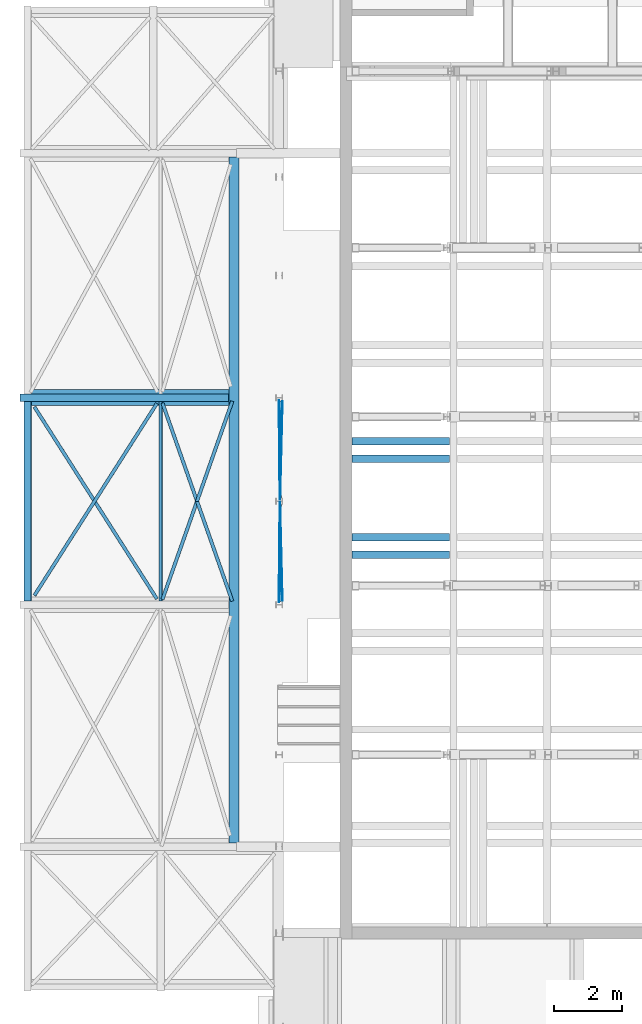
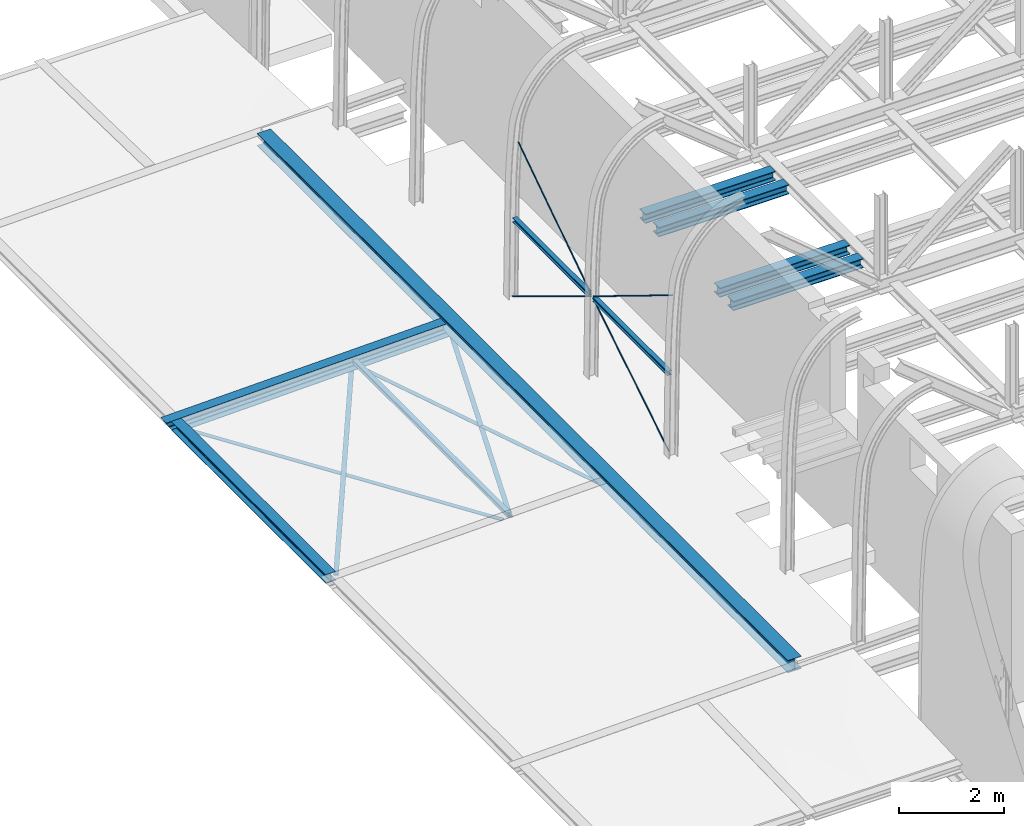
# One storey, part 14 of 29: 18 beams.
"""IFC2X3 building model written with IfcOpenShell, lengths in millimetres."""

from ifc_helpers import new_model, entity, si_unit, converted_unit, derived_unit, direction, frame, frame_2d, origin, origin_2d_with_axis, place, context, subcontext, project, spatial, polyline, circle_curve, parameter, trimmed, segment, composite_curve, rectangle, circle, i_section, outline, extrude, clip, halfspace, source, transform, mapped, material, material_list, type_object, type_shapes, element, save


model = new_model("IFC2X3")

# Units and contexts
model_context = context("Model", 3, precision=0.01, world=origin(), true_north=direction((6.12303176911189e-17, 1.0)))
body_context = subcontext(model_context, "Body", "Model", "MODEL_VIEW")
ifc_project = project(units=[si_unit("LENGTHUNIT", "METRE", prefix="MILLI"), si_unit("AREAUNIT", "SQUARE_METRE", prefix="MILLI"), si_unit("VOLUMEUNIT", "CUBIC_METRE"), converted_unit("PLANEANGLEUNIT", "DEGREE", entity("IfcRatioMeasure", 0.0174532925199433), si_unit("PLANEANGLEUNIT", "RADIAN"), dimensions=[0, 0, 0, 0, 0, 0, 0]), si_unit("MASSUNIT", "GRAM", prefix="KILO"), derived_unit("MASSDENSITYUNIT", [(si_unit("MASSUNIT", "GRAM", prefix="KILO"), 1), (si_unit("LENGTHUNIT", "METRE"), -3)]), derived_unit("MOMENTOFINERTIAUNIT", [(si_unit("LENGTHUNIT", "METRE"), 4)]), si_unit("TIMEUNIT", "SECOND"), si_unit("FREQUENCYUNIT", "HERTZ"), si_unit("THERMODYNAMICTEMPERATUREUNIT", "DEGREE_CELSIUS"), derived_unit("THERMALTRANSMITTANCEUNIT", [(si_unit("MASSUNIT", "GRAM", prefix="KILO"), 1), (si_unit("THERMODYNAMICTEMPERATUREUNIT", "KELVIN"), -1), (si_unit("TIMEUNIT", "SECOND"), -3)]), derived_unit("VOLUMETRICFLOWRATEUNIT", [(si_unit("LENGTHUNIT", "METRE"), 3), (si_unit("TIMEUNIT", "SECOND"), -1)]), si_unit("ELECTRICCURRENTUNIT", "AMPERE"), si_unit("ELECTRICVOLTAGEUNIT", "VOLT"), si_unit("POWERUNIT", "WATT"), si_unit("FORCEUNIT", "NEWTON", prefix="KILO"), si_unit("ILLUMINANCEUNIT", "LUX"), si_unit("LUMINOUSFLUXUNIT", "LUMEN"), si_unit("LUMINOUSINTENSITYUNIT", "CANDELA"), derived_unit("USERDEFINED", [(si_unit("MASSUNIT", "GRAM", prefix="KILO"), -1), (si_unit("LENGTHUNIT", "METRE"), -2), (si_unit("TIMEUNIT", "SECOND"), 3), (si_unit("LUMINOUSFLUXUNIT", "LUMEN"), 1)]), derived_unit("LINEARVELOCITYUNIT", [(si_unit("LENGTHUNIT", "METRE"), 1), (si_unit("TIMEUNIT", "SECOND"), -1)]), si_unit("PRESSUREUNIT", "PASCAL"), derived_unit("USERDEFINED", [(si_unit("LENGTHUNIT", "METRE"), -2), (si_unit("MASSUNIT", "GRAM", prefix="KILO"), 1), (si_unit("TIMEUNIT", "SECOND"), -2)]), derived_unit("LINEARFORCEUNIT", [(si_unit("MASSUNIT", "GRAM", prefix="KILO"), 1), (si_unit("LENGTHUNIT", "METRE"), 1), (si_unit("TIMEUNIT", "SECOND"), -2), (si_unit("LENGTHUNIT", "METRE"), -1)]), derived_unit("PLANARFORCEUNIT", [(si_unit("MASSUNIT", "GRAM", prefix="KILO"), 1), (si_unit("LENGTHUNIT", "METRE"), 1), (si_unit("TIMEUNIT", "SECOND"), -2), (si_unit("LENGTHUNIT", "METRE"), -2)])], contexts=[model_context])

# Site, building, storey
site_placement = place(None, origin())
site = spatial("IfcSite", under=ifc_project, at=site_placement, Name="Theater aan de Parade", CompositionType="ELEMENT")
building_placement = place(site_placement, origin())
building = spatial("IfcBuilding", under=site, at=building_placement, Name="Theater aan de Parade", CompositionType="ELEMENT")
storey_placement = place(building_placement, frame((0.0, 0.0, 20300.0)))
storey = spatial("IfcBuildingStorey", under=building, at=storey_placement, Name="05 vijfde verdieping", CompositionType="ELEMENT", Elevation=20300.0)

# Beams
ifc_material_1 = material(Name="00_PBT_MAT_staal_S355")
beam_type_1 = type_object("IfcBeamType", Name="28_PBT_SF_staal_H-profiel:S355_HE220B", PredefinedType="NOTDEFINED")
beam_1_placement = place(storey_placement, frame((70715.0, 34183.5, 0.0), z_axis=(0.0, 0.0, 1.0), x_axis=(-1.0, 0.0, 0.0)))
element("IfcBeam", 1, at=beam_1_placement, inside=storey, type_object=beam_type_1, material=ifc_material_1, Name="28_PBT_SF_staal_H-profiel:S355_HE220B", ObjectType="28_PBT_SF_staal_H-profiel:S355_HE220B", context=body_context, shape_type="SweptSolid", body=[
    extrude(outline(composite_curve([segment(polyline([(94.0, -110.0), (110.0, -110.0)]), True, "CONTINUOUS"), segment(polyline([(110.0, -110.0), (110.0, 110.0)]), True, "CONTINUOUS"), segment(polyline([(110.0, 110.0), (94.0, 110.0)]), True, "CONTINUOUS"), segment(polyline([(94.0, 110.0), (94.0, 22.7500000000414)]), True, "CONTINUOUS"), segment(trimmed(circle_curve(frame_2d((76.0, 22.7500000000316), x_axis=(1.0, 0.0)), 18.0000000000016), [parameter(270.0)], [parameter(0.0)], True, "PARAMETER"), False, "CONTINUOUS"), segment(polyline([(76.0, 4.75000000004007), (-76.0, 4.74999999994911)]), True, "CONTINUOUS"), segment(trimmed(circle_curve(frame_2d((-76.0, 22.7499999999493), x_axis=(0.0, -1.0)), 18.0000000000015), [parameter(270.0)], [parameter(0.0)], True, "PARAMETER"), False, "CONTINUOUS"), segment(polyline([(-94.0, 22.7499999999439), (-94.0, 110.0)]), True, "CONTINUOUS"), segment(polyline([(-94.0, 110.0), (-110.0, 110.0)]), True, "CONTINUOUS"), segment(polyline([(-110.0, 110.0), (-110.0, -110.0)]), True, "CONTINUOUS"), segment(polyline([(-110.0, -110.0), (-94.0, -110.0)]), True, "CONTINUOUS"), segment(polyline([(-94.0, -110.0), (-94.0, -22.7500000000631)]), True, "CONTINUOUS"), segment(trimmed(circle_curve(frame_2d((-76.0, -22.7500000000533), x_axis=(-1.0, 0.0)), 17.9999999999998), [parameter(270.0)], [parameter(0.0)], True, "PARAMETER"), False, "CONTINUOUS"), segment(polyline([(-76.0, -4.7500000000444), (76.0, -4.74999999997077)]), True, "CONTINUOUS"), segment(trimmed(circle_curve(frame_2d((76.0, -22.749999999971), x_axis=(0.0, 1.0)), 18.0000000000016), [parameter(270.0)], [parameter(0.0)], True, "PARAMETER"), False, "CONTINUOUS"), segment(polyline([(94.0, -22.7499999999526), (94.0, -110.0)]), True, "CONTINUOUS")], self_intersect=False)), frame((122.699999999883, 0.0, 2360.0), z_axis=(1.0, 0.0, 0.0), x_axis=(0.0, 0.0, -1.0)), (0.0, 0.0, 1.0), 2873.34389903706),
])
beam_2_placement = place(storey_placement, frame((70715.0, 33669.4998, 0.0), z_axis=(0.0, 0.0, 1.0), x_axis=(-1.0, 0.0, 0.0)))
element("IfcBeam", 2, at=beam_2_placement, inside=storey, type_object=beam_type_1, material=ifc_material_1, Name="28_PBT_SF_staal_H-profiel:S355_HE220B", ObjectType="28_PBT_SF_staal_H-profiel:S355_HE220B", context=body_context, shape_type="SweptSolid", body=[
    extrude(outline(composite_curve([segment(polyline([(94.0, -110.0), (110.0, -110.0)]), True, "CONTINUOUS"), segment(polyline([(110.0, -110.0), (110.0, 110.0)]), True, "CONTINUOUS"), segment(polyline([(110.0, 110.0), (94.0, 110.0)]), True, "CONTINUOUS"), segment(polyline([(94.0, 110.0), (94.0, 22.7500000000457)]), True, "CONTINUOUS"), segment(trimmed(circle_curve(frame_2d((76.0, 22.750000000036), x_axis=(1.0, 0.0)), 18.0000000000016), [parameter(270.0)], [parameter(0.0)], True, "PARAMETER"), False, "CONTINUOUS"), segment(polyline([(76.0, 4.7500000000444), (-76.0, 4.74999999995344)]), True, "CONTINUOUS"), segment(trimmed(circle_curve(frame_2d((-76.0, 22.7499999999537), x_axis=(0.0, -1.0)), 18.0000000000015), [parameter(270.0)], [parameter(0.0)], True, "PARAMETER"), False, "CONTINUOUS"), segment(polyline([(-94.0, 22.7499999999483), (-94.0, 110.0)]), True, "CONTINUOUS"), segment(polyline([(-94.0, 110.0), (-110.0, 110.0)]), True, "CONTINUOUS"), segment(polyline([(-110.0, 110.0), (-110.0, -110.0)]), True, "CONTINUOUS"), segment(polyline([(-110.0, -110.0), (-94.0, -110.0)]), True, "CONTINUOUS"), segment(polyline([(-94.0, -110.0), (-94.0, -22.7500000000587)]), True, "CONTINUOUS"), segment(trimmed(circle_curve(frame_2d((-76.0, -22.750000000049), x_axis=(-1.0, 0.0)), 17.9999999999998), [parameter(270.0)], [parameter(0.0)], True, "PARAMETER"), False, "CONTINUOUS"), segment(polyline([(-76.0, -4.75000000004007), (76.0, -4.74999999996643)]), True, "CONTINUOUS"), segment(trimmed(circle_curve(frame_2d((76.0, -22.7499999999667), x_axis=(0.0, 1.0)), 18.0000000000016), [parameter(270.0)], [parameter(0.0)], True, "PARAMETER"), False, "CONTINUOUS"), segment(polyline([(94.0, -22.7499999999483), (94.0, -110.0)]), True, "CONTINUOUS")], self_intersect=False)), frame((122.699999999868, 0.0, 2360.0), z_axis=(1.0, 0.0, 0.0), x_axis=(0.0, 0.0, -1.0)), (0.0, 0.0, 1.0), 2873.34389903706),
])
beam_3_placement = place(storey_placement, frame((70715.0, 31340.5, 0.0), z_axis=(0.0, 0.0, 1.0), x_axis=(-1.0, 0.0, 0.0)))
element("IfcBeam", 3, at=beam_3_placement, inside=storey, type_object=beam_type_1, material=ifc_material_1, Name="28_PBT_SF_staal_H-profiel:S355_HE220B", ObjectType="28_PBT_SF_staal_H-profiel:S355_HE220B", context=body_context, shape_type="SweptSolid", body=[
    extrude(outline(composite_curve([segment(polyline([(94.0, -110.0), (110.0, -110.0)]), True, "CONTINUOUS"), segment(polyline([(110.0, -110.0), (110.0, 110.0)]), True, "CONTINUOUS"), segment(polyline([(110.0, 110.0), (94.0, 110.0)]), True, "CONTINUOUS"), segment(polyline([(94.0, 110.0), (94.0, 22.7500000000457)]), True, "CONTINUOUS"), segment(trimmed(circle_curve(frame_2d((76.0, 22.750000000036), x_axis=(1.0, 0.0)), 18.0000000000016), [parameter(270.0)], [parameter(0.0)], True, "PARAMETER"), False, "CONTINUOUS"), segment(polyline([(76.0, 4.7500000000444), (-76.0, 4.74999999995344)]), True, "CONTINUOUS"), segment(trimmed(circle_curve(frame_2d((-76.0, 22.7499999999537), x_axis=(0.0, -1.0)), 18.0000000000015), [parameter(270.0)], [parameter(0.0)], True, "PARAMETER"), False, "CONTINUOUS"), segment(polyline([(-94.0, 22.7499999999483), (-94.0, 110.0)]), True, "CONTINUOUS"), segment(polyline([(-94.0, 110.0), (-110.0, 110.0)]), True, "CONTINUOUS"), segment(polyline([(-110.0, 110.0), (-110.0, -110.0)]), True, "CONTINUOUS"), segment(polyline([(-110.0, -110.0), (-94.0, -110.0)]), True, "CONTINUOUS"), segment(polyline([(-94.0, -110.0), (-94.0, -22.7500000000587)]), True, "CONTINUOUS"), segment(trimmed(circle_curve(frame_2d((-76.0, -22.750000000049), x_axis=(-1.0, 0.0)), 17.9999999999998), [parameter(270.0)], [parameter(0.0)], True, "PARAMETER"), False, "CONTINUOUS"), segment(polyline([(-76.0, -4.75000000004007), (76.0, -4.74999999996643)]), True, "CONTINUOUS"), segment(trimmed(circle_curve(frame_2d((76.0, -22.7499999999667), x_axis=(0.0, 1.0)), 18.0000000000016), [parameter(270.0)], [parameter(0.0)], True, "PARAMETER"), False, "CONTINUOUS"), segment(polyline([(94.0, -22.7499999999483), (94.0, -110.0)]), True, "CONTINUOUS")], self_intersect=False)), frame((122.699999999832, 0.0, 2360.0), z_axis=(1.0, 0.0, 0.0), x_axis=(0.0, 0.0, -1.0)), (0.0, 0.0, 1.0), 2873.34389903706),
])
beam_4_placement = place(storey_placement, frame((70715.0, 30826.4998, 0.0), z_axis=(0.0, 0.0, 1.0), x_axis=(-1.0, 0.0, 0.0)))
element("IfcBeam", 4, at=beam_4_placement, inside=storey, type_object=beam_type_1, material=ifc_material_1, Name="28_PBT_SF_staal_H-profiel:S355_HE220B", ObjectType="28_PBT_SF_staal_H-profiel:S355_HE220B", context=body_context, shape_type="SweptSolid", body=[
    extrude(outline(composite_curve([segment(polyline([(94.0, -110.0), (110.0, -110.0)]), True, "CONTINUOUS"), segment(polyline([(110.0, -110.0), (110.0, 110.0)]), True, "CONTINUOUS"), segment(polyline([(110.0, 110.0), (94.0, 110.0)]), True, "CONTINUOUS"), segment(polyline([(94.0, 110.0), (94.0, 22.7500000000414)]), True, "CONTINUOUS"), segment(trimmed(circle_curve(frame_2d((76.0, 22.7500000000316), x_axis=(1.0, 0.0)), 18.0000000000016), [parameter(270.0)], [parameter(0.0)], True, "PARAMETER"), False, "CONTINUOUS"), segment(polyline([(76.0, 4.75000000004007), (-76.0, 4.74999999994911)]), True, "CONTINUOUS"), segment(trimmed(circle_curve(frame_2d((-76.0, 22.7499999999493), x_axis=(0.0, -1.0)), 18.0000000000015), [parameter(270.0)], [parameter(0.0)], True, "PARAMETER"), False, "CONTINUOUS"), segment(polyline([(-94.0, 22.7499999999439), (-94.0, 110.0)]), True, "CONTINUOUS"), segment(polyline([(-94.0, 110.0), (-110.0, 110.0)]), True, "CONTINUOUS"), segment(polyline([(-110.0, 110.0), (-110.0, -110.0)]), True, "CONTINUOUS"), segment(polyline([(-110.0, -110.0), (-94.0, -110.0)]), True, "CONTINUOUS"), segment(polyline([(-94.0, -110.0), (-94.0, -22.7500000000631)]), True, "CONTINUOUS"), segment(trimmed(circle_curve(frame_2d((-76.0, -22.7500000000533), x_axis=(-1.0, 0.0)), 17.9999999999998), [parameter(270.0)], [parameter(0.0)], True, "PARAMETER"), False, "CONTINUOUS"), segment(polyline([(-76.0, -4.7500000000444), (76.0, -4.74999999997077)]), True, "CONTINUOUS"), segment(trimmed(circle_curve(frame_2d((76.0, -22.749999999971), x_axis=(0.0, 1.0)), 18.0000000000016), [parameter(270.0)], [parameter(0.0)], True, "PARAMETER"), False, "CONTINUOUS"), segment(polyline([(94.0, -22.7499999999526), (94.0, -110.0)]), True, "CONTINUOUS")], self_intersect=False)), frame((122.699999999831, 0.0, 2360.0), z_axis=(1.0, 0.0, 0.0), x_axis=(0.0, 0.0, -1.0)), (0.0, 0.0, 1.0), 2873.34389903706),
])
beam_type_2 = type_object("IfcBeamType", Name="28_PBT_SF_staal_H-profiel:S355_HE220A", PredefinedType="NOTDEFINED")
beam_5_placement = place(storey_placement, frame((58114.89761, 29456.916549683, 53.3503559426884), z_axis=(0.0, 0.0, 1.0), x_axis=(0.0, 1.0, 0.0)))
element("IfcBeam", 5, at=beam_5_placement, inside=storey, type_object=beam_type_2, material=ifc_material_1, Name="28_PBT_SF_staal_H-profiel:S355_HE220A", ObjectType="28_PBT_SF_staal_H-profiel:S355_HE220A", context=body_context, shape_type="SweptSolid", body=[
    extrude(i_section(OverallWidth=220.000000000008, OverallDepth=210.0, WebThickness=6.99999999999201, FlangeThickness=10.9999999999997, FilletRadius=18.0000000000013, at=frame_2d((4.44089209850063e-12, -4.220623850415e-12), x_axis=(1.0, 0.0))), frame((0.0, 2.59326393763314, 104.967971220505), z_axis=(1.0, 0.0, 0.0), x_axis=(0.0, -0.999694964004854, 0.0246977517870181)), (0.0, 0.0, 1.0), 5905.58344589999),
])
ifc_material_2 = material(Name="00_PBT_MAT_staal")
beam_type_3 = type_object("IfcBeamType", Name="28_PBT_SF_staal_strip:strip 100x10", PredefinedType="NOTDEFINED")
beam_6_placement = place(storey_placement, frame((58140.6809342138, 29346.916549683, 53.9873403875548), z_axis=(-0.00714422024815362, -0.0112002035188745, 0.999911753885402), x_axis=(0.537728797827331, 0.84301320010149, 0.0132847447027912)))
element("IfcBeam", 6, at=beam_6_placement, inside=storey, type_object=beam_type_3, material=ifc_material_2, Name="28_PBT_SF_staal_strip:strip 100x10", ObjectType="28_PBT_SF_staal_strip:strip 100x10", context=body_context, shape_type="SweptSolid", body=[
    extrude(rectangle(XDim=10.0000000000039, YDim=99.9999999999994, at=frame_2d((5.97921712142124e-12, 1.06581410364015e-13), x_axis=(0.0, 1.0))), frame((323.364938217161, -0.312335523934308, -14.9967478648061), z_axis=(1.0, 0.0, 0.0), x_axis=(0.0, -0.999783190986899, 0.0208223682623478)), (0.0, 0.0, 1.0), 6741.05338737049),
])
beam_7_placement = place(storey_placement, frame((64216.4952926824, 29319.1138733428, 190.0), z_axis=(-0.00201132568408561, 0.00570733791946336, 0.99998169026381), x_axis=(-0.332368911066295, 0.943130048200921, -0.00605137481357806)))
element("IfcBeam", 7, at=beam_7_placement, inside=storey, type_object=beam_type_3, material=ifc_material_2, Name="28_PBT_SF_staal_strip:strip 100x10", ObjectType="28_PBT_SF_staal_strip:strip 100x10", context=body_context, shape_type="SweptSolid", body=[
    extrude(rectangle(XDim=10.0000000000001, YDim=100.000000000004, at=frame_2d((3.10862446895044e-15, 4.80326889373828e-12), x_axis=(1.0, 0.0))), frame((139.903659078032, 0.0, -15.0), z_axis=(1.0, 0.0, 0.0), x_axis=(0.0, 0.0, -1.0)), (0.0, 0.0, 1.0), 6216.44155413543),
])
beam_8_placement = place(storey_placement, frame((58140.6809342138, 35472.499995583, 53.9873403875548), z_axis=(-0.00714422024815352, 0.0112002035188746, 0.999911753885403), x_axis=(0.537728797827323, -0.843013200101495, 0.0132847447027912)))
element("IfcBeam", 8, at=beam_8_placement, inside=storey, type_object=beam_type_3, material=ifc_material_2, Name="28_PBT_SF_staal_strip:strip 100x10", ObjectType="28_PBT_SF_staal_strip:strip 100x10", context=body_context, shape_type="SweptSolid", body=[
    extrude(rectangle(XDim=9.9999999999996, YDim=99.9999999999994, at=frame_2d((1.06936681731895e-12, -4.32986979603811e-12), x_axis=(0.0, 1.0))), frame((323.36493821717, 0.31233552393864, -14.9967478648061), z_axis=(1.0, 0.0, 0.0), x_axis=(0.0, -0.999783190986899, -0.0208223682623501)), (0.0, 0.0, 1.0), 6741.05338737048),
])
beam_9_placement = place(storey_placement, frame((64206.6973382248, 35472.4999955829, 190.0), z_axis=(-0.0020204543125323, -0.00573324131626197, 0.999981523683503), x_axis=(-0.332368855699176, -0.943129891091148, -0.00607883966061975)))
element("IfcBeam", 9, at=beam_9_placement, inside=storey, type_object=beam_type_3, material=ifc_material_2, Name="28_PBT_SF_staal_strip:strip 100x10", ObjectType="28_PBT_SF_staal_strip:strip 100x10", context=body_context, shape_type="SweptSolid", body=[
    extrude(rectangle(XDim=9.99999999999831, YDim=100.000000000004, at=frame_2d((4.33164615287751e-12, 0.0), x_axis=(1.0, 0.0))), frame((110.425070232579, 0.0, -15.0), z_axis=(1.0, 0.0, 0.0), x_axis=(0.0, 0.0, -1.0)), (0.0, 0.0, 1.0), 6216.44267744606),
])
beam_type_4 = type_object("IfcBeamType", Name="28_PBT_SF_staal_massief_rond:S355_D20", PredefinedType="NOTDEFINED")
beam_10_placement = place(storey_placement, frame((65553.4448749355, 29351.416549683, 475.597024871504), z_axis=(-0.00495522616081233, -0.515557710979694, 0.856840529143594), x_axis=(0.00823504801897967, 0.856800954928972, 0.515581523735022)))
element("IfcBeam", 10, at=beam_10_placement, inside=storey, type_object=beam_type_4, material=ifc_material_1, Name="28_PBT_SF_staal_massief_rond:S355_D20", ObjectType="28_PBT_SF_staal_massief_rond:S355_D20", context=body_context, shape_type="SweptSolid", body=[
    extrude(circle(Radius=10.0000000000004, at=origin_2d_with_axis()), frame((91.4558229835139, 0.0, 0.0), z_axis=(1.0, 0.0, 0.0), x_axis=(0.0, 0.0186386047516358, -0.9998262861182)), (0.0, 0.0, 1.0), 3428.05136915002),
])
beam_11_placement = place(storey_placement, frame((65582.7156333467, 32409.416549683, 2315.32804682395), z_axis=(-0.0127079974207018, 0.518513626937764, 0.854974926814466), x_axis=(0.0209478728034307, -0.854718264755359, 0.518669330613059)))
element("IfcBeam", 11, at=beam_11_placement, inside=storey, type_object=beam_type_4, material=ifc_material_1, Name="28_PBT_SF_staal_massief_rond:S355_D20", ObjectType="28_PBT_SF_staal_massief_rond:S355_D20", context=body_context, shape_type="SweptSolid", body=[
    extrude(circle(Radius=10.0000000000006, at=origin_2d_with_axis()), frame((60.833695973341, 0.0, 0.0), z_axis=(1.0, 0.0, 0.0), x_axis=(0.0, 0.0472000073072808, 0.998885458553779)), (0.0, 0.0, 1.0), 3386.44744656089),
])
beam_12_placement = place(storey_placement, frame((65553.4448749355, 35467.4165496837, 475.597024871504), z_axis=(-0.00495522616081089, 0.515557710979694, 0.856840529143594), x_axis=(0.00823504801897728, -0.856800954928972, 0.515581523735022)))
element("IfcBeam", 12, at=beam_12_placement, inside=storey, type_object=beam_type_4, material=ifc_material_1, Name="28_PBT_SF_staal_massief_rond:S355_D20", ObjectType="28_PBT_SF_staal_massief_rond:S355_D20", context=body_context, shape_type="SweptSolid", body=[
    extrude(circle(Radius=10.0, at=origin_2d_with_axis()), frame((91.4558229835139, 0.0, 0.0), z_axis=(1.0, 0.0, 0.0), x_axis=(0.0, -0.0186386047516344, -0.9998262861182)), (0.0, 0.0, 1.0), 3428.05136915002),
])
beam_13_placement = place(storey_placement, frame((65582.7156333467, 32409.4165496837, 2315.32804682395), z_axis=(-0.0127079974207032, -0.518513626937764, 0.854974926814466), x_axis=(0.0209478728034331, 0.854718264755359, 0.518669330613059)))
element("IfcBeam", 13, at=beam_13_placement, inside=storey, type_object=beam_type_4, material=ifc_material_1, Name="28_PBT_SF_staal_massief_rond:S355_D20", ObjectType="28_PBT_SF_staal_massief_rond:S355_D20", context=body_context, shape_type="SweptSolid", body=[
    extrude(circle(Radius=10.0000000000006, at=origin_2d_with_axis()), frame((60.8336959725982, 0.0, 0.0), z_axis=(1.0, 0.0, 0.0), x_axis=(0.0, 0.0472000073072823, -0.998885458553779)), (0.0, 0.0, 1.0), 3387.13006435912),
])
beam_type_5 = type_object("IfcBeamType", Name="28_PBT_SF_staal_H-profiel:S355_HE300A", PredefinedType="NOTDEFINED")
beam_14_placement = place(storey_placement, frame((64216.0560363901, 42590.0, 0.0), z_axis=(0.0, 0.0, 1.0), x_axis=(0.0, -1.0, 0.0)))
element("IfcBeam", 14, at=beam_14_placement, inside=storey, type_object=beam_type_5, material=ifc_material_1, Name="28_PBT_SF_staal_H-profiel:S355_HE300A", ObjectType="28_PBT_SF_staal_H-profiel:S355_HE300A", context=body_context, shape_type="SweptSolid", body=[
    extrude(outline(composite_curve([segment(polyline([(131.0, -150.0), (145.0, -150.0)]), True, "CONTINUOUS"), segment(polyline([(145.0, -150.0), (145.0, 150.0)]), True, "CONTINUOUS"), segment(polyline([(145.0, 150.0), (131.0, 150.0)]), True, "CONTINUOUS"), segment(polyline([(131.0, 150.0), (131.0, 31.2500000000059)]), True, "CONTINUOUS"), segment(trimmed(circle_curve(frame_2d((104.0, 31.2499999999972), x_axis=(1.0, 0.0)), 26.9999999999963), [parameter(269.999999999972)], [parameter(0.0)], True, "PARAMETER"), False, "CONTINUOUS"), segment(polyline([(104.0, 4.25000000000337), (-104.0, 4.25000000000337)]), True, "CONTINUOUS"), segment(trimmed(circle_curve(frame_2d((-104.0, 31.2499999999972), x_axis=(0.0, -1.0)), 26.9999999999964), [parameter(269.999999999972)], [parameter(0.0)], True, "PARAMETER"), False, "CONTINUOUS"), segment(polyline([(-131.0, 31.2500000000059), (-131.0, 150.0)]), True, "CONTINUOUS"), segment(polyline([(-131.0, 150.0), (-145.0, 150.0)]), True, "CONTINUOUS"), segment(polyline([(-145.0, 150.0), (-145.0, -150.0)]), True, "CONTINUOUS"), segment(polyline([(-145.0, -150.0), (-131.0, -150.0)]), True, "CONTINUOUS"), segment(polyline([(-131.0, -150.0), (-131.0, -31.2499999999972)]), True, "CONTINUOUS"), segment(trimmed(circle_curve(frame_2d((-104.0, -31.2499999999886), x_axis=(-1.0, 0.0)), 26.9999999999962), [parameter(269.999999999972)], [parameter(0.0)], True, "PARAMETER"), False, "CONTINUOUS"), segment(polyline([(-104.0, -4.2499999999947), (104.0, -4.2499999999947)]), True, "CONTINUOUS"), segment(trimmed(circle_curve(frame_2d((104.0, -31.2499999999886), x_axis=(0.0, 1.0)), 26.9999999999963), [parameter(269.999999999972)], [parameter(0.0)], True, "PARAMETER"), False, "CONTINUOUS"), segment(polyline([(131.0, -31.2499999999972), (131.0, -150.0)]), True, "CONTINUOUS")], self_intersect=False)), frame((0.0, 0.0, 331.0), z_axis=(1.0, 0.0, 0.0), x_axis=(0.0, 0.0, -1.0)), (0.0, 0.0, 1.0), 20289.9999999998),
])
beam_type_6 = type_object("IfcBeamType", Name="28_PBT_SF_staal_H-profiel:S355_HE100A", PredefinedType="NOTDEFINED")
beam_15_placement = place(storey_placement, frame((65582.9043228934, 32309.416549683, 0.0), z_axis=(0.0, 0.0, 1.0), x_axis=(0.0, -1.0, 0.0)))
element("IfcBeam", 15, at=beam_15_placement, inside=storey, type_object=beam_type_6, material=ifc_material_1, Name="28_PBT_SF_staal_H-profiel:S355_HE100A", ObjectType="28_PBT_SF_staal_H-profiel:S355_HE100A", context=body_context, shape_type="SweptSolid", body=[
    extrude(outline(composite_curve([segment(polyline([(40.0, -50.0), (48.0, -50.0)]), True, "CONTINUOUS"), segment(polyline([(48.0, -50.0), (48.0, 50.0)]), True, "CONTINUOUS"), segment(polyline([(48.0, 50.0), (40.0, 50.0)]), True, "CONTINUOUS"), segment(polyline([(40.0, 50.0), (40.0, 14.4999999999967)]), True, "CONTINUOUS"), segment(trimmed(circle_curve(frame_2d((28.0, 14.4999999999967), x_axis=(1.0, 0.0)), 11.9999999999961), [parameter(269.999999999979)], [parameter(0.0)], True, "PARAMETER"), False, "CONTINUOUS"), segment(polyline([(28.0, 2.49999999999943), (-28.0, 2.49999999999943)]), True, "CONTINUOUS"), segment(trimmed(circle_curve(frame_2d((-28.0, 14.4999999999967), x_axis=(0.0, -1.0)), 11.9999999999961), [parameter(269.999999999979)], [parameter(0.0)], True, "PARAMETER"), False, "CONTINUOUS"), segment(polyline([(-40.0, 14.4999999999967), (-40.0, 50.0)]), True, "CONTINUOUS"), segment(polyline([(-40.0, 50.0), (-48.0, 50.0)]), True, "CONTINUOUS"), segment(polyline([(-48.0, 50.0), (-48.0, -50.0)]), True, "CONTINUOUS"), segment(polyline([(-48.0, -50.0), (-40.0, -50.0)]), True, "CONTINUOUS"), segment(polyline([(-40.0, -50.0), (-40.0, -14.5000000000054)]), True, "CONTINUOUS"), segment(trimmed(circle_curve(frame_2d((-28.0, -14.5000000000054), x_axis=(-1.0, 0.0)), 11.9999999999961), [parameter(269.999999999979)], [parameter(0.0)], True, "PARAMETER"), False, "CONTINUOUS"), segment(polyline([(-28.0, -2.49999999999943), (28.0, -2.49999999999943)]), True, "CONTINUOUS"), segment(trimmed(circle_curve(frame_2d((28.0, -14.5000000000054), x_axis=(0.0, 1.0)), 11.9999999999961), [parameter(269.999999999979)], [parameter(0.0)], True, "PARAMETER"), False, "CONTINUOUS"), segment(polyline([(40.0, -14.5000000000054), (40.0, -50.0)]), True, "CONTINUOUS")], self_intersect=False)), frame((0.0, 0.0, 2320.0), z_axis=(1.0, 0.0, 0.0), x_axis=(0.0, 0.0, -1.0)), (0.0, 0.0, 1.0), 2862.5),
])
beam_16_placement = place(storey_placement, frame((65582.9043228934, 35372.499995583, 0.0), z_axis=(0.0, 0.0, 1.0), x_axis=(0.0, -1.0, 0.0)))
element("IfcBeam", 16, at=beam_16_placement, inside=storey, type_object=beam_type_6, material=ifc_material_1, Name="28_PBT_SF_staal_H-profiel:S355_HE100A", ObjectType="28_PBT_SF_staal_H-profiel:S355_HE100A", context=body_context, shape_type="SweptSolid", body=[
    extrude(outline(composite_curve([segment(polyline([(40.0, -50.0), (48.0, -50.0)]), True, "CONTINUOUS"), segment(polyline([(48.0, -50.0), (48.0, 50.0)]), True, "CONTINUOUS"), segment(polyline([(48.0, 50.0), (40.0, 50.0)]), True, "CONTINUOUS"), segment(polyline([(40.0, 50.0), (40.0, 14.4999999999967)]), True, "CONTINUOUS"), segment(trimmed(circle_curve(frame_2d((28.0, 14.4999999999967), x_axis=(1.0, 0.0)), 11.9999999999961), [parameter(269.999999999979)], [parameter(0.0)], True, "PARAMETER"), False, "CONTINUOUS"), segment(polyline([(28.0, 2.49999999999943), (-28.0, 2.49999999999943)]), True, "CONTINUOUS"), segment(trimmed(circle_curve(frame_2d((-28.0, 14.4999999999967), x_axis=(0.0, -1.0)), 11.9999999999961), [parameter(269.999999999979)], [parameter(0.0)], True, "PARAMETER"), False, "CONTINUOUS"), segment(polyline([(-40.0, 14.4999999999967), (-40.0, 50.0)]), True, "CONTINUOUS"), segment(polyline([(-40.0, 50.0), (-48.0, 50.0)]), True, "CONTINUOUS"), segment(polyline([(-48.0, 50.0), (-48.0, -50.0)]), True, "CONTINUOUS"), segment(polyline([(-48.0, -50.0), (-40.0, -50.0)]), True, "CONTINUOUS"), segment(polyline([(-40.0, -50.0), (-40.0, -14.5000000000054)]), True, "CONTINUOUS"), segment(trimmed(circle_curve(frame_2d((-28.0, -14.5000000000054), x_axis=(-1.0, 0.0)), 11.9999999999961), [parameter(269.999999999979)], [parameter(0.0)], True, "PARAMETER"), False, "CONTINUOUS"), segment(polyline([(-28.0, -2.49999999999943), (28.0, -2.49999999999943)]), True, "CONTINUOUS"), segment(trimmed(circle_curve(frame_2d((28.0, -14.5000000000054), x_axis=(0.0, 1.0)), 11.9999999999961), [parameter(269.999999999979)], [parameter(0.0)], True, "PARAMETER"), False, "CONTINUOUS"), segment(polyline([(40.0, -14.5000000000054), (40.0, -50.0)]), True, "CONTINUOUS")], self_intersect=False)), frame((0.0, 0.0, 2320.0), z_axis=(1.0, 0.0, 0.0), x_axis=(0.0, 0.0, -1.0)), (0.0, 0.0, 1.0), 2863.08344589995),
])
beam_17_placement = place(storey_placement, frame((62051.1518609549, 35362.499995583, 150.596650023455), z_axis=(0.0, 0.0, 1.0), x_axis=(0.0, -1.0, 0.0)))
element("IfcBeam", 17, at=beam_17_placement, inside=storey, type_object=beam_type_6, material=ifc_material_1, Name="28_PBT_SF_staal_H-profiel:S355_HE100A", ObjectType="28_PBT_SF_staal_H-profiel:S355_HE100A", context=body_context, shape_type="SweptSolid", body=[
    extrude(outline(composite_curve([segment(polyline([(40.0, -50.0), (48.0, -50.0)]), True, "CONTINUOUS"), segment(polyline([(48.0, -50.0), (48.0, 50.0)]), True, "CONTINUOUS"), segment(polyline([(48.0, 50.0), (40.0, 50.0)]), True, "CONTINUOUS"), segment(polyline([(40.0, 50.0), (40.0, 14.500000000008)]), True, "CONTINUOUS"), segment(trimmed(circle_curve(frame_2d((28.0, 14.5000000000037), x_axis=(1.0, 0.0)), 11.9999999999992), [parameter(269.999999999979)], [parameter(0.0)], True, "PARAMETER"), False, "CONTINUOUS"), segment(polyline([(28.0, 2.49999999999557), (-28.0, 2.49999999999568)]), True, "CONTINUOUS"), segment(trimmed(circle_curve(frame_2d((-28.0, 14.4999999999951), x_axis=(0.0, -1.0)), 12.0000000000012), [parameter(270.000000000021)], [parameter(0.0)], True, "PARAMETER"), False, "CONTINUOUS"), segment(polyline([(-40.0, 14.4999999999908), (-40.0, 50.0)]), True, "CONTINUOUS"), segment(polyline([(-40.0, 50.0), (-48.0, 50.0)]), True, "CONTINUOUS"), segment(polyline([(-48.0, 50.0), (-48.0, -50.0)]), True, "CONTINUOUS"), segment(polyline([(-48.0, -50.0), (-40.0, -50.0)]), True, "CONTINUOUS"), segment(polyline([(-40.0, -50.0), (-40.0, -14.500000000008)]), True, "CONTINUOUS"), segment(trimmed(circle_curve(frame_2d((-28.0, -14.5000000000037), x_axis=(-1.0, 0.0)), 11.9999999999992), [parameter(269.999999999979)], [parameter(0.0)], True, "PARAMETER"), False, "CONTINUOUS"), segment(polyline([(-28.0, -2.50000000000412), (28.0, -2.49999999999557)]), True, "CONTINUOUS"), segment(trimmed(circle_curve(frame_2d((28.0, -14.499999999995), x_axis=(0.0, 1.0)), 12.0000000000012), [parameter(270.000000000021)], [parameter(0.0)], True, "PARAMETER"), False, "CONTINUOUS"), segment(polyline([(40.0, -14.4999999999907), (40.0, -50.0)]), True, "CONTINUOUS")], self_intersect=False)), frame((0.0, -2.51917068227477, 101.968886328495), z_axis=(1.0, 0.0, 0.0), x_axis=(0.0, -0.024697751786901, 0.999694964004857)), (0.0, 0.0, 1.0), 5905.58344590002),
])
ifc_material_3 = material(Name="00_PBT_MAT_Lucht")
ifc_material_list = material_list([ifc_material_3, ifc_material_1])
beam_type_7 = type_object("IfcBeamType", Name="28_PBT_SF_staal_H-profiel_met_onderplaat (void):S355_HE220A + onderplaat d=12", PredefinedType="BEAM", material=ifc_material_list)
shared_shape = source(origin(), body_context, "Body", "SweptSolid", [
    clip(extrude(i_section(OverallWidth=219.999999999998, OverallDepth=210.000000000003, WebThickness=7.00000000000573, FlangeThickness=11.000000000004, FilletRadius=17.9999999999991, at=frame_2d((6.50146603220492e-12, -4.32720526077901e-12), x_axis=(1.0, 0.0))), frame((57891.0585320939, 35472.499995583, 20452.852385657), z_axis=(0.99969496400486, 0.0, 0.0246977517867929), x_axis=(0.0, -1.0, 0.0)), (0.0, 0.0, 1.0), 6176.88167554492), halfspace(frame((57892.4632346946, 31357.7998275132, 20551.0890506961), z_axis=(-0.859784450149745, 0.0, -0.510657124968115), x_axis=(-0.510657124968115, 0.0, 0.859784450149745)), False)),
    extrude(rectangle(XDim=11.999999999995, YDim=470.000000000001, at=frame_2d((2.17426077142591e-12, 1.07469588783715e-13), x_axis=(0.0, 1.0))), frame((58228.6471370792, 35472.499995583, 20350.1587399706), z_axis=(0.999694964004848, 0.0, 0.0246977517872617), x_axis=(0.0, -1.0, 0.0)), (0.0, 0.0, 1.0), 5841.93234940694),
])
type_shapes(beam_type_7, [shared_shape])
beam_18_placement = place(storey_placement, frame((0.0, 0.0, -20300.0)))
element("IfcBeam", 18, at=beam_18_placement, inside=storey, type_object=beam_type_7, material=ifc_material_1, Name="28_PBT_SF_staal_H-profiel_met_onderplaat (void):S355_HE220A + onderplaat d=12", ObjectType="28_PBT_SF_staal_H-profiel_met_onderplaat (void):S355_HE220A + onderplaat d=12", context=body_context, shape_type="MappedRepresentation", body=[
    mapped(shared_shape, transform((0.0, 0.0, 0.0), scale=1.0)),
])

save(model, "model.ifc")
